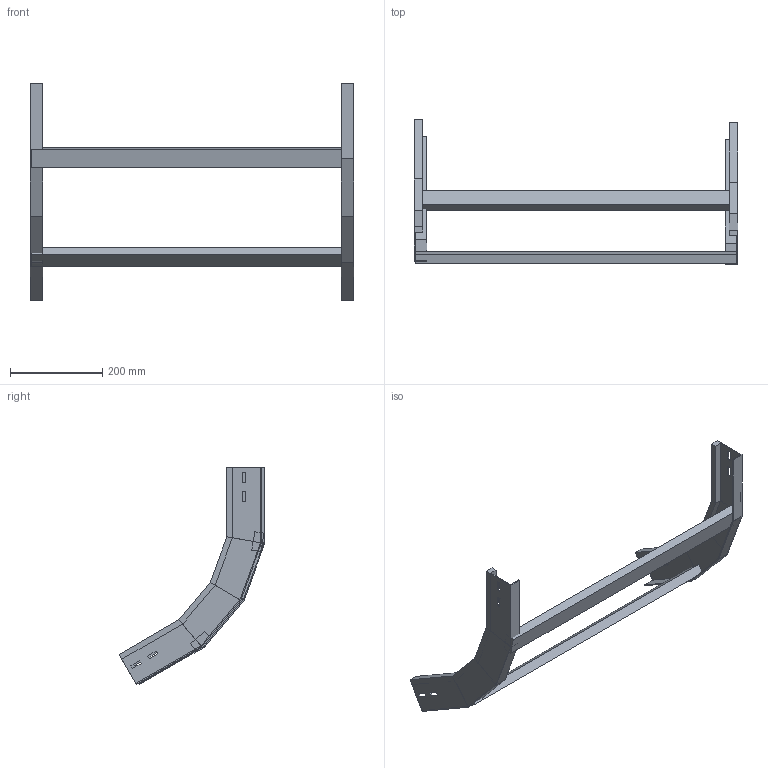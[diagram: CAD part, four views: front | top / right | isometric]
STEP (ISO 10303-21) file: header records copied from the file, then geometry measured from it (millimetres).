
FILE_DESCRIPTION (( 'STEP AP214' ), '1' );
FILE_NAME ('A2X40B3C700XX.step', '2025-04-02T09:33:28', ( '' ), ( '' ), 'SwSTEP 2.0', 'SolidWorks 2023', '' );
FILE_SCHEMA (( 'AUTOMOTIVE_DESIGN' ));
Length unit declared in the file: millimetre
Products named in the file (3): TRAVERSINO_700; LONGH.SALITA_60°_H75_R300; A2X40B3C700XX
Assembly tree (4 placements, depth 2):
  A2X40B3C700XX
    LONGH.SALITA_60°_H75_R300  x2
    TRAVERSINO_700  x2
Bounding box: 700 x 315.85 x 469.15 mm (x, y, z)
Volume: 1547106 mm3; surface area: 432903.6 mm2
Topology: 4 solids, 4 shells, 112 faces, 264 edges, 160 vertices
Faces by surface type: plane 112
Entity records: 1664 total; most frequent: CARTESIAN_POINT 275, ORIENTED_EDGE 264, DIRECTION 258, LINE 132, EDGE_CURVE 132, VECTOR 132, VERTEX_POINT 80, EDGE_LOOP 64
